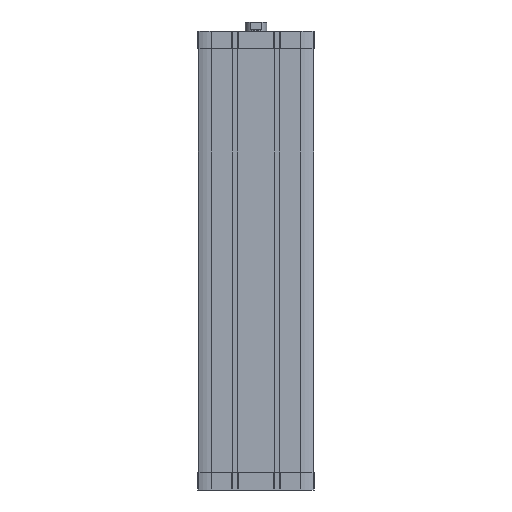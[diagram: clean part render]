
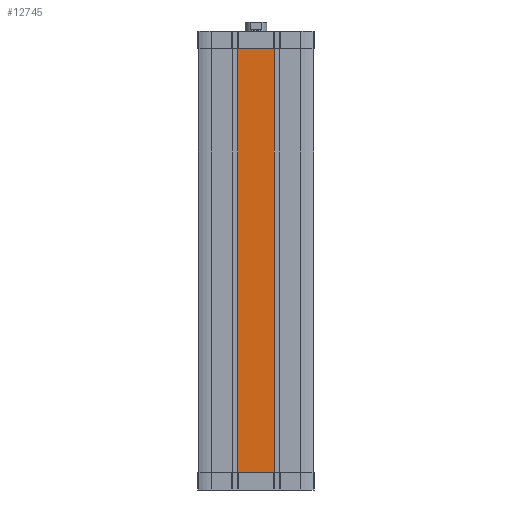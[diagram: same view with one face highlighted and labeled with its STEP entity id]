
A CAD part, front view. The second image highlights one B-rep face of the part: STEP entity #12745.
In plain terms, the highlighted planar face has unit normal (0, -1, 0).
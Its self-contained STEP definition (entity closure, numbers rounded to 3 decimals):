
#256 = LINE ( 'NONE', #8253, #16145 ) ;
#1325 = CARTESIAN_POINT ( 'NONE',  ( -67., -67., -511. ) ) ;
#1345 = LINE ( 'NONE', #5513, #14278 ) ;
#1357 = LINE ( 'NONE', #10999, #1507 ) ;
#1507 = VECTOR ( 'NONE', #8055, 1000. ) ;
#1749 = DIRECTION ( 'NONE',  ( 0., -1., 0. ) ) ;
#2096 = VECTOR ( 'NONE', #4337, 1000. ) ;
#2528 = CARTESIAN_POINT ( 'NONE',  ( 21.3, -67., -20. ) ) ;
#2679 = ORIENTED_EDGE ( 'NONE', *, *, #11502, .T. ) ;
#3045 = DIRECTION ( 'NONE',  ( 0., 0., -1. ) ) ;
#3091 = EDGE_CURVE ( 'NONE', #10977, #12084, #5172, .T. ) ;
#3975 = ORIENTED_EDGE ( 'NONE', *, *, #10893, .F. ) ;
#4199 = ORIENTED_EDGE ( 'NONE', *, *, #3091, .F. ) ;
#4337 = DIRECTION ( 'NONE',  ( 1., 0., 0. ) ) ;
#4391 = LINE ( 'NONE', #16221, #12641 ) ;
#4437 = VERTEX_POINT ( 'NONE', #2528 ) ;
#4466 = DIRECTION ( 'NONE',  ( 1., 0., 0. ) ) ;
#5172 = LINE ( 'NONE', #5258, #11377 ) ;
#5258 = CARTESIAN_POINT ( 'NONE',  ( -21.3, -67., -511. ) ) ;
#5513 = CARTESIAN_POINT ( 'NONE',  ( -67., -67., -20. ) ) ;
#5640 = CARTESIAN_POINT ( 'NONE',  ( -67., -67., -20. ) ) ;
#6523 = VERTEX_POINT ( 'NONE', #15607 ) ;
#6604 = LINE ( 'NONE', #17218, #7614 ) ;
#6807 = AXIS2_PLACEMENT_3D ( 'NONE', #7055, #1749, #3045 ) ;
#6950 = LINE ( 'NONE', #5640, #2096 ) ;
#7055 = CARTESIAN_POINT ( 'NONE',  ( -67., -67., -511. ) ) ;
#7200 = VERTEX_POINT ( 'NONE', #14710 ) ;
#7614 = VECTOR ( 'NONE', #15649, 1000. ) ;
#7789 = EDGE_CURVE ( 'NONE', #7200, #4437, #6950, .T. ) ;
#7958 = DIRECTION ( 'NONE',  ( 1., 0., 0. ) ) ;
#8055 = DIRECTION ( 'NONE',  ( 1., 0., 0. ) ) ;
#8253 = CARTESIAN_POINT ( 'NONE',  ( 21.3, -67., -511. ) ) ;
#8389 = CARTESIAN_POINT ( 'NONE',  ( -21.3, -67., -511. ) ) ;
#8531 = PLANE ( 'NONE',  #6807 ) ;
#9476 = DIRECTION ( 'NONE',  ( 0., 0., 1. ) ) ;
#9929 = ORIENTED_EDGE ( 'NONE', *, *, #16063, .T. ) ;
#10014 = VECTOR ( 'NONE', #14877, 1000. ) ;
#10427 = ORIENTED_EDGE ( 'NONE', *, *, #7789, .F. ) ;
#10727 = EDGE_CURVE ( 'NONE', #12084, #6523, #1345, .T. ) ;
#10893 = EDGE_CURVE ( 'NONE', #6523, #7200, #1357, .T. ) ;
#10977 = VERTEX_POINT ( 'NONE', #8389 ) ;
#10999 = CARTESIAN_POINT ( 'NONE',  ( -21.3, -67., -20. ) ) ;
#11251 = VERTEX_POINT ( 'NONE', #11940 ) ;
#11377 = VECTOR ( 'NONE', #13334, 1000. ) ;
#11473 = VERTEX_POINT ( 'NONE', #11817 ) ;
#11502 = EDGE_CURVE ( 'NONE', #11251, #11473, #6604, .T. ) ;
#11817 = CARTESIAN_POINT ( 'NONE',  ( 21.3, -67., -511. ) ) ;
#11868 = CARTESIAN_POINT ( 'NONE',  ( -20.687, -67., -511. ) ) ;
#11940 = CARTESIAN_POINT ( 'NONE',  ( 20.687, -67., -511. ) ) ;
#11970 = ORIENTED_EDGE ( 'NONE', *, *, #10727, .F. ) ;
#12084 = VERTEX_POINT ( 'NONE', #16061 ) ;
#12641 = VECTOR ( 'NONE', #4466, 1000. ) ;
#12745 = ADVANCED_FACE ( 'NONE', ( #14958 ), #8531, .T. ) ;
#13315 = LINE ( 'NONE', #1325, #10014 ) ;
#13334 = DIRECTION ( 'NONE',  ( 0., 0., 1. ) ) ;
#13409 = ORIENTED_EDGE ( 'NONE', *, *, #13809, .T. ) ;
#13809 = EDGE_CURVE ( 'NONE', #10977, #17117, #13315, .T. ) ;
#13877 = EDGE_LOOP ( 'NONE', ( #4199, #13409, #9929, #2679, #16531, #10427, #3975, #11970 ) ) ;
#14054 = EDGE_CURVE ( 'NONE', #11473, #4437, #256, .T. ) ;
#14278 = VECTOR ( 'NONE', #7958, 1000. ) ;
#14710 = CARTESIAN_POINT ( 'NONE',  ( 20.687, -67., -20. ) ) ;
#14877 = DIRECTION ( 'NONE',  ( 1., 0., 0. ) ) ;
#14958 = FACE_OUTER_BOUND ( 'NONE', #13877, .T. ) ;
#15607 = CARTESIAN_POINT ( 'NONE',  ( -20.687, -67., -20. ) ) ;
#15649 = DIRECTION ( 'NONE',  ( 1., 0., 0. ) ) ;
#16061 = CARTESIAN_POINT ( 'NONE',  ( -21.3, -67., -20. ) ) ;
#16063 = EDGE_CURVE ( 'NONE', #17117, #11251, #4391, .T. ) ;
#16145 = VECTOR ( 'NONE', #9476, 1000. ) ;
#16221 = CARTESIAN_POINT ( 'NONE',  ( -21.3, -67., -511. ) ) ;
#16531 = ORIENTED_EDGE ( 'NONE', *, *, #14054, .T. ) ;
#17117 = VERTEX_POINT ( 'NONE', #11868 ) ;
#17218 = CARTESIAN_POINT ( 'NONE',  ( -67., -67., -511. ) ) ;
